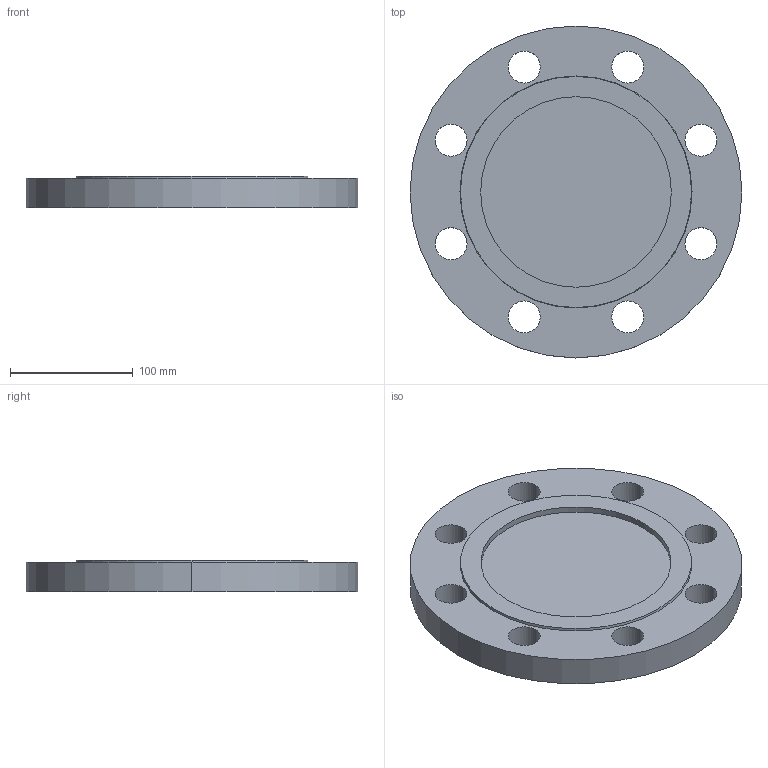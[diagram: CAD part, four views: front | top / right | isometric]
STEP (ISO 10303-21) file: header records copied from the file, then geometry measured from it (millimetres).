
FILE_DESCRIPTION (( 'STEP AP214' ), '1' );
FILE_NAME ('PN40 DN125 Type 05 - Type G Face.STEP', '2019-01-02T19:28:44', ( '' ), ( '' ), 'SwSTEP 2.0', 'SolidWorks 2019', '' );
FILE_SCHEMA (( 'AUTOMOTIVE_DESIGN' ));
Length unit declared in the file: millimetre
Products named in the file (1): PN40 DN125 Type 05 - Type G Face
Bounding box: 270 x 270 x 26 mm (x, y, z)
Volume: 1233575 mm3; surface area: 145484.3 mm2
Topology: 1 solids, 1 shells, 26 faces, 66 edges, 44 vertices
Faces by surface type: cylinder 20, plane 4, cone 2
Entity records: 880 total; most frequent: DIRECTION 164, CARTESIAN_POINT 137, ORIENTED_EDGE 132, AXIS2_PLACEMENT_3D 71, EDGE_CURVE 66, CIRCLE 44, VERTEX_POINT 44, EDGE_LOOP 44
